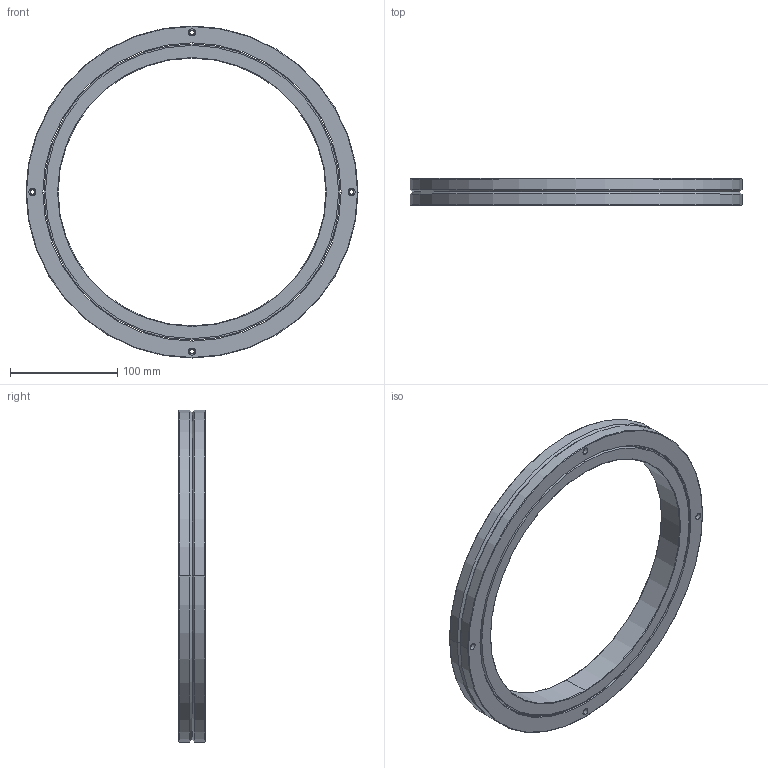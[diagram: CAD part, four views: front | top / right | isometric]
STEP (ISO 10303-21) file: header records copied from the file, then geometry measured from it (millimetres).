
FILE_DESCRIPTION((''),'2;1');
FILE_NAME('RB25025','2015-08-27T',('Administrator'),(''),'PRO/ENGINEER BY PARAMETRIC TECHNOLOGY CORPORATION, 2010180','PRO/ENGINEER BY PARAMETRIC TECHNOLOGY CORPORATION, 2010180','');
FILE_SCHEMA(('AUTOMOTIVE_DESIGN_CC2 { 1 2 10303 214 -1 1 5 2 }'));
Length unit declared in the file: millimetre
Products named in the file (1): RB25025
Bounding box: 310 x 25 x 310 mm (x, y, z)
Volume: 539754.6 mm3; surface area: 161655.3 mm2
Topology: 2 solids, 2 shells, 88 faces, 184 edges, 114 vertices
Faces by surface type: cylinder 50, plane 18, cone 12, torus 8
Entity records: 2497 total; most frequent: DIRECTION 482, CARTESIAN_POINT 386, ORIENTED_EDGE 368, AXIS2_PLACEMENT_3D 210, EDGE_CURVE 184, CIRCLE 122, VERTEX_POINT 114, EDGE_LOOP 114
